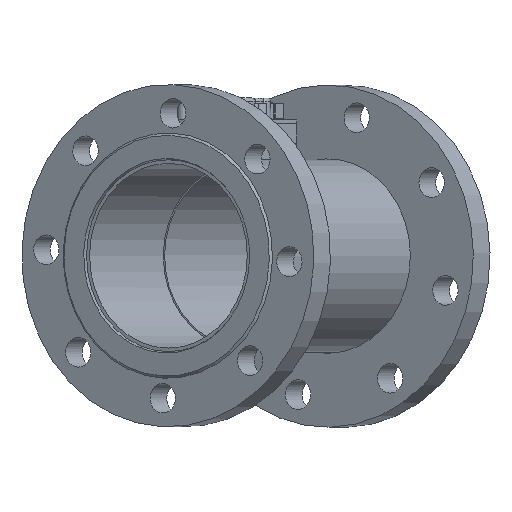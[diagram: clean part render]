
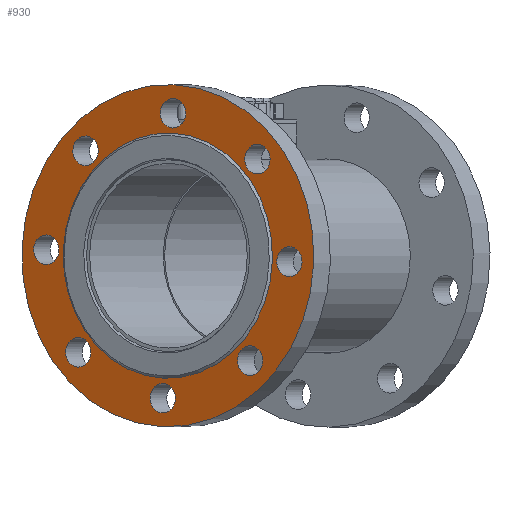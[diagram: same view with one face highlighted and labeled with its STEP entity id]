
A CAD part, top view. The second image highlights one B-rep face of the part: STEP entity #930.
In plain terms, the highlighted planar face has unit normal (-0.522, 0, 0.853) as drawn and (0, 0, 1) by its records, which use the part's own axes.
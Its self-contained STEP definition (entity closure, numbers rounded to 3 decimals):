
#930 = ADVANCED_FACE( '', ( #1865, #1866, #1867, #1868, #1869, #1870, #1871, #1872, #1873, #1874 ), #1875, .T. );
#1865 = FACE_BOUND( '', #4772, .T. );
#1866 = FACE_BOUND( '', #4773, .T. );
#1867 = FACE_BOUND( '', #4774, .T. );
#1868 = FACE_BOUND( '', #4775, .T. );
#1869 = FACE_BOUND( '', #4776, .T. );
#1870 = FACE_BOUND( '', #4777, .T. );
#1871 = FACE_BOUND( '', #4778, .T. );
#1872 = FACE_BOUND( '', #4779, .T. );
#1873 = FACE_OUTER_BOUND( '', #4780, .T. );
#1874 = FACE_BOUND( '', #4781, .T. );
#1875 = PLANE( '', #4782 );
#4772 = EDGE_LOOP( '', ( #7818 ) );
#4773 = EDGE_LOOP( '', ( #7819 ) );
#4774 = EDGE_LOOP( '', ( #7820 ) );
#4775 = EDGE_LOOP( '', ( #7821 ) );
#4776 = EDGE_LOOP( '', ( #7822 ) );
#4777 = EDGE_LOOP( '', ( #7823 ) );
#4778 = EDGE_LOOP( '', ( #7824 ) );
#4779 = EDGE_LOOP( '', ( #7825 ) );
#4780 = EDGE_LOOP( '', ( #7826 ) );
#4781 = EDGE_LOOP( '', ( #7827 ) );
#4782 = AXIS2_PLACEMENT_3D( '', #7828, #7829, #7830 );
#7818 = ORIENTED_EDGE( '', *, *, #8536, .T. );
#7819 = ORIENTED_EDGE( '', *, *, #8368, .T. );
#7820 = ORIENTED_EDGE( '', *, *, #7985, .T. );
#7821 = ORIENTED_EDGE( '', *, *, #8747, .T. );
#7822 = ORIENTED_EDGE( '', *, *, #8766, .T. );
#7823 = ORIENTED_EDGE( '', *, *, #8718, .T. );
#7824 = ORIENTED_EDGE( '', *, *, #8682, .T. );
#7825 = ORIENTED_EDGE( '', *, *, #8512, .T. );
#7826 = ORIENTED_EDGE( '', *, *, #7982, .T. );
#7827 = ORIENTED_EDGE( '', *, *, #8426, .F. );
#7828 = CARTESIAN_POINT( '', ( 150., 0., 19.859 ) );
#7829 = DIRECTION( '', ( 0., 0., 1. ) );
#7830 = DIRECTION( '', ( 1., 0., 0. ) );
#7982 = EDGE_CURVE( '', #8789, #8789, #8790, .T. );
#7985 = EDGE_CURVE( '', #8794, #8794, #8795, .T. );
#8368 = EDGE_CURVE( '', #9439, #9439, #9440, .T. );
#8426 = EDGE_CURVE( '', #9515, #9515, #9516, .T. );
#8512 = EDGE_CURVE( '', #9638, #9638, #9639, .T. );
#8536 = EDGE_CURVE( '', #9668, #9668, #9669, .T. );
#8682 = EDGE_CURVE( '', #9848, #9848, #9849, .T. );
#8718 = EDGE_CURVE( '', #9890, #9890, #9891, .T. );
#8747 = EDGE_CURVE( '', #9920, #9920, #9921, .T. );
#8766 = EDGE_CURVE( '', #9940, #9940, #9941, .T. );
#8789 = VERTEX_POINT( '', #9964 );
#8790 = CIRCLE( '', #9965, 150. );
#8794 = VERTEX_POINT( '', #9969 );
#8795 = CIRCLE( '', #9970, 13. );
#9439 = VERTEX_POINT( '', #11438 );
#9440 = CIRCLE( '', #11439, 13. );
#9515 = VERTEX_POINT( '', #11589 );
#9516 = CIRCLE( '', #11590, 107.5 );
#9638 = VERTEX_POINT( '', #11879 );
#9639 = CIRCLE( '', #11880, 13. );
#9668 = VERTEX_POINT( '', #12007 );
#9669 = CIRCLE( '', #12008, 13. );
#9848 = VERTEX_POINT( '', #12496 );
#9849 = CIRCLE( '', #12497, 13. );
#9890 = VERTEX_POINT( '', #12541 );
#9891 = CIRCLE( '', #12542, 13. );
#9920 = VERTEX_POINT( '', #12616 );
#9921 = CIRCLE( '', #12617, 13. );
#9940 = VERTEX_POINT( '', #12638 );
#9941 = CIRCLE( '', #12639, 13. );
#9964 = CARTESIAN_POINT( '', ( 150., 0., 19.859 ) );
#9965 = AXIS2_PLACEMENT_3D( '', #12662, #12663, #12664 );
#9969 = CARTESIAN_POINT( '', ( 0., -138., 19.859 ) );
#9970 = AXIS2_PLACEMENT_3D( '', #12668, #12669, #12670 );
#11438 = CARTESIAN_POINT( '', ( -88.388, -101.388, 19.859 ) );
#11439 = AXIS2_PLACEMENT_3D( '', #13281, #13282, #13283 );
#11589 = CARTESIAN_POINT( '', ( 107.5, 0., 19.859 ) );
#11590 = AXIS2_PLACEMENT_3D( '', #13342, #13343, #13344 );
#11879 = CARTESIAN_POINT( '', ( -88.388, 75.388, 19.859 ) );
#11880 = AXIS2_PLACEMENT_3D( '', #13460, #13461, #13462 );
#12007 = CARTESIAN_POINT( '', ( -125., -13., 19.859 ) );
#12008 = AXIS2_PLACEMENT_3D( '', #13482, #13483, #13484 );
#12496 = CARTESIAN_POINT( '', ( 0., 112., 19.859 ) );
#12497 = AXIS2_PLACEMENT_3D( '', #13636, #13637, #13638 );
#12541 = CARTESIAN_POINT( '', ( 88.388, 75.388, 19.859 ) );
#12542 = AXIS2_PLACEMENT_3D( '', #13681, #13682, #13683 );
#12616 = CARTESIAN_POINT( '', ( 88.388, -101.388, 19.859 ) );
#12617 = AXIS2_PLACEMENT_3D( '', #13699, #13700, #13701 );
#12638 = CARTESIAN_POINT( '', ( 125., -13., 19.859 ) );
#12639 = AXIS2_PLACEMENT_3D( '', #13710, #13711, #13712 );
#12662 = CARTESIAN_POINT( '', ( 0., 0., 19.859 ) );
#12663 = DIRECTION( '', ( 0., 0., 1. ) );
#12664 = DIRECTION( '', ( 1., 0., 0. ) );
#12668 = CARTESIAN_POINT( '', ( 0., -125., 19.859 ) );
#12669 = DIRECTION( '', ( 0., 0., -1. ) );
#12670 = DIRECTION( '', ( 0., -1., 0. ) );
#13281 = CARTESIAN_POINT( '', ( -88.388, -88.388, 19.859 ) );
#13282 = DIRECTION( '', ( 0., 0., -1. ) );
#13283 = DIRECTION( '', ( 0., -1., 0. ) );
#13342 = CARTESIAN_POINT( '', ( 0., 0., 19.859 ) );
#13343 = DIRECTION( '', ( 0., 0., 1. ) );
#13344 = DIRECTION( '', ( 1., 0., 0. ) );
#13460 = CARTESIAN_POINT( '', ( -88.388, 88.388, 19.859 ) );
#13461 = DIRECTION( '', ( 0., 0., -1. ) );
#13462 = DIRECTION( '', ( 0., -1., 0. ) );
#13482 = CARTESIAN_POINT( '', ( -125., 0., 19.859 ) );
#13483 = DIRECTION( '', ( 0., 0., -1. ) );
#13484 = DIRECTION( '', ( 0., -1., 0. ) );
#13636 = CARTESIAN_POINT( '', ( 0., 125., 19.859 ) );
#13637 = DIRECTION( '', ( 0., 0., -1. ) );
#13638 = DIRECTION( '', ( 0., -1., 0. ) );
#13681 = CARTESIAN_POINT( '', ( 88.388, 88.388, 19.859 ) );
#13682 = DIRECTION( '', ( 0., 0., -1. ) );
#13683 = DIRECTION( '', ( 0., -1., 0. ) );
#13699 = CARTESIAN_POINT( '', ( 88.388, -88.388, 19.859 ) );
#13700 = DIRECTION( '', ( 0., 0., -1. ) );
#13701 = DIRECTION( '', ( 0., -1., 0. ) );
#13710 = CARTESIAN_POINT( '', ( 125., 0., 19.859 ) );
#13711 = DIRECTION( '', ( 0., 0., -1. ) );
#13712 = DIRECTION( '', ( 0., -1., 0. ) );
